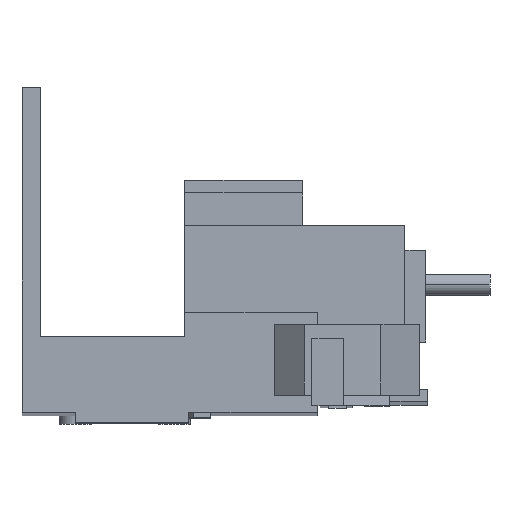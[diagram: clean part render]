
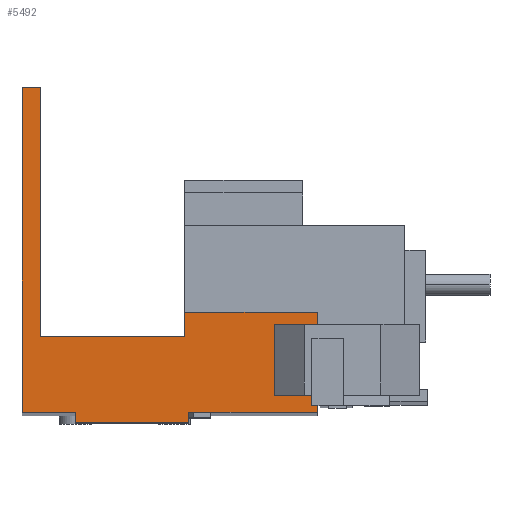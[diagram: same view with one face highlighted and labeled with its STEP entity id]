
A CAD part, front view. The second image highlights one B-rep face of the part: STEP entity #5492.
In plain terms, the highlighted planar face has unit normal (0, -1, 0.002).
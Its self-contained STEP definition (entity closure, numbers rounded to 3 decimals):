
#90 = DIRECTION ( 'NONE',  ( 1., 0., 0. ) ) ;
#91 = DIRECTION ( 'NONE',  ( 0., 1., -0.002 ) ) ;
#148 = PLANE ( 'NONE',  #4476 ) ;
#155 = CARTESIAN_POINT ( 'NONE',  ( 0., -33.075, -35.931 ) ) ;
#255 = VERTEX_POINT ( 'NONE', #2967 ) ;
#272 = VERTEX_POINT ( 'NONE', #3097 ) ;
#283 = VERTEX_POINT ( 'NONE', #3135 ) ;
#301 = VERTEX_POINT ( 'NONE', #3141 ) ;
#392 = VERTEX_POINT ( 'NONE', #2808 ) ;
#430 = VERTEX_POINT ( 'NONE', #2829 ) ;
#468 = VERTEX_POINT ( 'NONE', #3108 ) ;
#532 = FACE_OUTER_BOUND ( 'NONE', #1377, .T. ) ;
#680 = DIRECTION ( 'NONE',  ( 1., 0., 0. ) ) ;
#698 = CARTESIAN_POINT ( 'NONE',  ( 2.55, -32.98, 9.819 ) ) ;
#786 = CARTESIAN_POINT ( 'NONE',  ( 7.5, -33.078, -37.431 ) ) ;
#812 = CARTESIAN_POINT ( 'NONE',  ( 1.75, -33.053, -25.181 ) ) ;
#965 = CARTESIAN_POINT ( 'NONE',  ( 23.5, -33.078, -37.431 ) ) ;
#972 = DIRECTION ( 'NONE',  ( 1., 0., 0. ) ) ;
#973 = CARTESIAN_POINT ( 'NONE',  ( 2.55, -33.072, -34.474 ) ) ;
#977 = DIRECTION ( 'NONE',  ( 0., -0.002, -1. ) ) ;
#978 = CARTESIAN_POINT ( 'NONE',  ( 7.5, -33.078, -37.431 ) ) ;
#1037 = DIRECTION ( 'NONE',  ( 0., 0.002, 1. ) ) ;
#1042 = CARTESIAN_POINT ( 'NONE',  ( 22.92, -33.046, -21.831 ) ) ;
#1057 = DIRECTION ( 'NONE',  ( 1., 0., 0. ) ) ;
#1058 = DIRECTION ( 'NONE',  ( 0., 0.002, 1. ) ) ;
#1066 = DIRECTION ( 'NONE',  ( 0., 0.002, 1. ) ) ;
#1280 = ORIENTED_EDGE ( 'NONE', *, *, #4998, .F. ) ;
#1359 = ORIENTED_EDGE ( 'NONE', *, *, #5340, .F. ) ;
#1365 = ORIENTED_EDGE ( 'NONE', *, *, #5307, .F. ) ;
#1377 = EDGE_LOOP ( 'NONE', ( #1581, #1563, #1578, #1577, #1573, #1359, #1457, #1426, #1428, #1429, #1280, #1365 ) ) ;
#1426 = ORIENTED_EDGE ( 'NONE', *, *, #5341, .T. ) ;
#1428 = ORIENTED_EDGE ( 'NONE', *, *, #4956, .F. ) ;
#1429 = ORIENTED_EDGE ( 'NONE', *, *, #4309, .F. ) ;
#1457 = ORIENTED_EDGE ( 'NONE', *, *, #5339, .T. ) ;
#1563 = ORIENTED_EDGE ( 'NONE', *, *, #5338, .F. ) ;
#1573 = ORIENTED_EDGE ( 'NONE', *, *, #4093, .F. ) ;
#1577 = ORIENTED_EDGE ( 'NONE', *, *, #5023, .F. ) ;
#1578 = ORIENTED_EDGE ( 'NONE', *, *, #5093, .F. ) ;
#1581 = ORIENTED_EDGE ( 'NONE', *, *, #5337, .F. ) ;
#1701 = CARTESIAN_POINT ( 'NONE',  ( 0., -33.075, -35.931 ) ) ;
#1719 = DIRECTION ( 'NONE',  ( 1., 0., 0. ) ) ;
#1723 = CARTESIAN_POINT ( 'NONE',  ( 0., -33.075, -35.931 ) ) ;
#1732 = DIRECTION ( 'NONE',  ( 0., 0.002, 1. ) ) ;
#1785 = CARTESIAN_POINT ( 'NONE',  ( 0., -32.98, 9.819 ) ) ;
#1794 = DIRECTION ( 'NONE',  ( -1., 0., 0. ) ) ;
#1795 = CARTESIAN_POINT ( 'NONE',  ( 41.6, -33.046, -21.831 ) ) ;
#1876 = DIRECTION ( 'NONE',  ( -1., 0., 0. ) ) ;
#1945 = CARTESIAN_POINT ( 'NONE',  ( 41.6, -33.075, -35.931 ) ) ;
#2213 = DIRECTION ( 'NONE',  ( 0., -0.002, -1. ) ) ;
#2808 = CARTESIAN_POINT ( 'NONE',  ( 22.92, -33.046, -21.831 ) ) ;
#2829 = CARTESIAN_POINT ( 'NONE',  ( 23.5, -33.078, -37.431 ) ) ;
#2924 = CARTESIAN_POINT ( 'NONE',  ( 0., -33.075, -35.931 ) ) ;
#2931 = CARTESIAN_POINT ( 'NONE',  ( 23.5, -33.075, -35.931 ) ) ;
#2936 = CARTESIAN_POINT ( 'NONE',  ( 41.6, -33.075, -35.931 ) ) ;
#2957 = CARTESIAN_POINT ( 'NONE',  ( 41.6, -33.046, -21.831 ) ) ;
#2967 = CARTESIAN_POINT ( 'NONE',  ( 2.55, -32.98, 9.819 ) ) ;
#2974 = CARTESIAN_POINT ( 'NONE',  ( 7.5, -33.075, -35.931 ) ) ;
#3097 = CARTESIAN_POINT ( 'NONE',  ( 0., -32.98, 9.819 ) ) ;
#3108 = CARTESIAN_POINT ( 'NONE',  ( 22.92, -33.053, -25.181 ) ) ;
#3135 = CARTESIAN_POINT ( 'NONE',  ( 7.5, -33.078, -37.431 ) ) ;
#3141 = CARTESIAN_POINT ( 'NONE',  ( 2.55, -33.053, -25.181 ) ) ;
#3381 = VERTEX_POINT ( 'NONE', #2931 ) ;
#3382 = VERTEX_POINT ( 'NONE', #2974 ) ;
#3388 = VERTEX_POINT ( 'NONE', #2924 ) ;
#3390 = VERTEX_POINT ( 'NONE', #2957 ) ;
#3406 = VERTEX_POINT ( 'NONE', #2936 ) ;
#3653 = LINE ( 'NONE', #1723, #3824 ) ;
#3824 = VECTOR ( 'NONE', #1876, 1000. ) ;
#3928 = LINE ( 'NONE', #1701, #4352 ) ;
#3934 = LINE ( 'NONE', #978, #4173 ) ;
#3970 = LINE ( 'NONE', #812, #4295 ) ;
#4005 = VECTOR ( 'NONE', #1732, 1000. ) ;
#4009 = LINE ( 'NONE', #965, #5145 ) ;
#4028 = LINE ( 'NONE', #973, #4190 ) ;
#4093 = EDGE_CURVE ( 'NONE', #3382, #3388, #3653, .T. ) ;
#4173 = VECTOR ( 'NONE', #1057, 1000. ) ;
#4190 = VECTOR ( 'NONE', #977, 1000. ) ;
#4295 = VECTOR ( 'NONE', #972, 1000. ) ;
#4309 = EDGE_CURVE ( 'NONE', #3390, #3406, #4657, .T. ) ;
#4352 = VECTOR ( 'NONE', #1794, 1000. ) ;
#4404 = LINE ( 'NONE', #1042, #5151 ) ;
#4449 = VECTOR ( 'NONE', #1719, 1000. ) ;
#4476 = AXIS2_PLACEMENT_3D ( 'NONE', #155, #91, #90 ) ;
#4646 = LINE ( 'NONE', #786, #5110 ) ;
#4650 = VECTOR ( 'NONE', #2213, 1000. ) ;
#4657 = LINE ( 'NONE', #1945, #4650 ) ;
#4718 = VECTOR ( 'NONE', #680, 1000. ) ;
#4753 = LINE ( 'NONE', #698, #4718 ) ;
#4796 = LINE ( 'NONE', #1795, #4449 ) ;
#4956 = EDGE_CURVE ( 'NONE', #3406, #3381, #3928, .T. ) ;
#4998 = EDGE_CURVE ( 'NONE', #392, #3390, #4796, .T. ) ;
#5023 = EDGE_CURVE ( 'NONE', #3388, #272, #5186, .T. ) ;
#5093 = EDGE_CURVE ( 'NONE', #272, #255, #4753, .T. ) ;
#5110 = VECTOR ( 'NONE', #1058, 1000. ) ;
#5145 = VECTOR ( 'NONE', #1066, 1000. ) ;
#5151 = VECTOR ( 'NONE', #1037, 1000. ) ;
#5186 = LINE ( 'NONE', #1785, #4005 ) ;
#5307 = EDGE_CURVE ( 'NONE', #468, #392, #4404, .T. ) ;
#5337 = EDGE_CURVE ( 'NONE', #301, #468, #3970, .T. ) ;
#5338 = EDGE_CURVE ( 'NONE', #255, #301, #4028, .T. ) ;
#5339 = EDGE_CURVE ( 'NONE', #283, #430, #3934, .T. ) ;
#5340 = EDGE_CURVE ( 'NONE', #283, #3382, #4646, .T. ) ;
#5341 = EDGE_CURVE ( 'NONE', #430, #3381, #4009, .T. ) ;
#5492 = ADVANCED_FACE ( 'NONE', ( #532 ), #148, .F. ) ;
